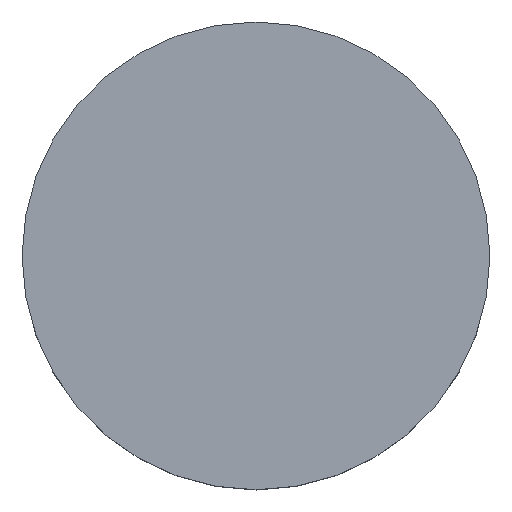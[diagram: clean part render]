
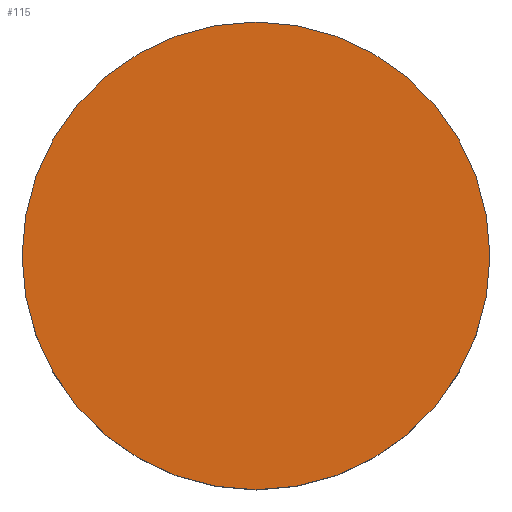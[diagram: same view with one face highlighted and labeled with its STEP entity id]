
A CAD part, top view. The second image highlights one B-rep face of the part: STEP entity #115.
In plain terms, the highlighted planar face has unit normal (0, 0, 1).
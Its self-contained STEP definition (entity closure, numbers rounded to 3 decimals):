
#115=ADVANCED_FACE('',(#129),#126,.T.);
#126=PLANE('',#242);
#129=FACE_OUTER_BOUND('',#139,.T.);
#139=EDGE_LOOP('',(#151,#152));
#151=ORIENTED_EDGE('',*,*,#203,.F.);
#152=ORIENTED_EDGE('',*,*,#204,.F.);
#191=VERTEX_POINT('',#329);
#192=VERTEX_POINT('',#330);
#203=EDGE_CURVE('',#191,#192,#223,.T.);
#204=EDGE_CURVE('',#192,#191,#224,.T.);
#223=CIRCLE('',#240,9.5);
#224=CIRCLE('',#241,9.5);
#240=AXIS2_PLACEMENT_3D('',#328,#269,#270);
#241=AXIS2_PLACEMENT_3D('',#331,#271,#272);
#242=AXIS2_PLACEMENT_3D('',#332,#273,#274);
#269=DIRECTION('',(0.,0.,-1.));
#270=DIRECTION('',(-1.,0.,0.));
#271=DIRECTION('',(0.,0.,-1.));
#272=DIRECTION('',(1.,0.,0.));
#273=DIRECTION('',(0.,0.,1.));
#274=DIRECTION('',(1.,0.,0.));
#328=CARTESIAN_POINT('',(0.,0.,5.));
#329=CARTESIAN_POINT('',(0.,9.5,5.));
#330=CARTESIAN_POINT('',(0.,-9.5,5.));
#331=CARTESIAN_POINT('',(0.,0.,5.));
#332=CARTESIAN_POINT('',(0.,0.,5.));
